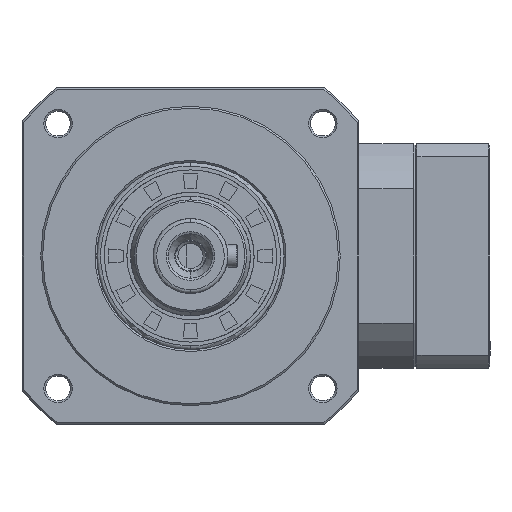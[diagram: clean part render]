
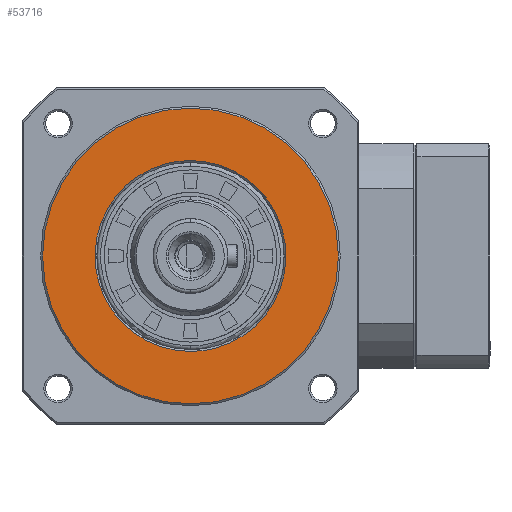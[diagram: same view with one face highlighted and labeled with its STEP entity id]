
A CAD part, left-side view. The second image highlights one B-rep face of the part: STEP entity #53716.
In plain terms, the highlighted planar face has unit normal (1, 0, 0).
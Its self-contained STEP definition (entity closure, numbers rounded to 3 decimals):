
#299 = CARTESIAN_POINT ( 'NONE',  ( 0., 24.684, -6.612 ) ) ;
#637 = CARTESIAN_POINT ( 'NONE',  ( 0., 0., 25.5 ) ) ;
#1298 = CARTESIAN_POINT ( 'NONE',  ( 0., 16.851, -19.211 ) ) ;
#3490 = CARTESIAN_POINT ( 'NONE',  ( 0., 0., 25.5 ) ) ;
#3763 = CARTESIAN_POINT ( 'NONE',  ( 0., 0., -25.5 ) ) ;
#4790 = CARTESIAN_POINT ( 'NONE',  ( 0., -12.779, 22.13 ) ) ;
#5102 = CARTESIAN_POINT ( 'NONE',  ( 0., -25.5, 1.669 ) ) ;
#5439 = CARTESIAN_POINT ( 'NONE',  ( 0., -15.555, 20.275 ) ) ;
#6093 = CARTESIAN_POINT ( 'NONE',  ( 0., -24.198, -8.216 ) ) ;
#6750 = CARTESIAN_POINT ( 'NONE',  ( 0., -1.669, -25.5 ) ) ;
#7942 = CARTESIAN_POINT ( 'NONE',  ( 0., 8.216, 24.198 ) ) ;
#8270 = CARTESIAN_POINT ( 'NONE',  ( 0., 12.779, 22.13 ) ) ;
#8598 = CARTESIAN_POINT ( 'NONE',  ( 0., 24.198, 8.216 ) ) ;
#8922 = CARTESIAN_POINT ( 'NONE',  ( 0., 19.211, -16.851 ) ) ;
#11432 = AXIS2_PLACEMENT_3D ( 'NONE', #35388, #73179, #88890 ) ;
#12439 = PLANE ( 'NONE',  #11432 ) ;
#13373 = CARTESIAN_POINT ( 'NONE',  ( 0., -8.216, 24.198 ) ) ;
#13704 = CARTESIAN_POINT ( 'NONE',  ( 0., -15.555, -20.275 ) ) ;
#15014 = CARTESIAN_POINT ( 'NONE',  ( 0., -3.338, -25.336 ) ) ;
#15252 = CARTESIAN_POINT ( 'NONE',  ( 0., 22.13, -12.779 ) ) ;
#15577 = CARTESIAN_POINT ( 'NONE',  ( 0., 19.211, 16.851 ) ) ;
#16246 = CARTESIAN_POINT ( 'NONE',  ( 0., 11.3, -22.92 ) ) ;
#20345 = CARTESIAN_POINT ( 'NONE',  ( 0., -24.684, -6.612 ) ) ;
#21386 = VERTEX_POINT ( 'NONE', #3763 ) ;
#22539 = CARTESIAN_POINT ( 'NONE',  ( 0., 20.275, -15.555 ) ) ;
#22871 = CARTESIAN_POINT ( 'NONE',  ( 0., 11.3, 22.92 ) ) ;
#23203 = CARTESIAN_POINT ( 'NONE',  ( 0., 25.5, -1.669 ) ) ;
#27670 = CARTESIAN_POINT ( 'NONE',  ( 0., -11.3, 22.92 ) ) ;
#28003 = CARTESIAN_POINT ( 'NONE',  ( 0., -22.92, -11.3 ) ) ;
#28499 = CIRCLE ( 'NONE', #69920, 39.5 ) ;
#28671 = CARTESIAN_POINT ( 'NONE',  ( 0., -20.275, 15.555 ) ) ;
#29219 = ORIENTED_EDGE ( 'NONE', *, *, #71617, .F. ) ;
#30545 = CARTESIAN_POINT ( 'NONE',  ( 0., 22.92, -11.3 ) ) ;
#30879 = CARTESIAN_POINT ( 'NONE',  ( 0., 12.779, -22.13 ) ) ;
#31604 = CARTESIAN_POINT ( 'NONE',  ( 0., 0., 0. ) ) ;
#32816 = ORIENTED_EDGE ( 'NONE', *, *, #77234, .F. ) ;
#34282 = EDGE_CURVE ( 'NONE', #38622, #48613, #28499, .T. ) ;
#35388 = CARTESIAN_POINT ( 'NONE',  ( 0., -39.974, 39.974 ) ) ;
#35686 = CARTESIAN_POINT ( 'NONE',  ( 0., -19.211, -16.851 ) ) ;
#38244 = DIRECTION ( 'NONE',  ( 1., 0., 0. ) ) ;
#38622 = VERTEX_POINT ( 'NONE', #83765 ) ;
#38882 = CARTESIAN_POINT ( 'NONE',  ( 0., 24.684, 6.612 ) ) ;
#40582 = EDGE_LOOP ( 'NONE', ( #89301, #55485 ) ) ;
#43394 = CARTESIAN_POINT ( 'NONE',  ( 0., -6.612, 24.684 ) ) ;
#45620 = CARTESIAN_POINT ( 'NONE',  ( 0., 20.275, 15.555 ) ) ;
#46943 = CARTESIAN_POINT ( 'NONE',  ( 0., 15.555, -20.275 ) ) ;
#47626 = FACE_OUTER_BOUND ( 'NONE', #40582, .T. ) ;
#48613 = VERTEX_POINT ( 'NONE', #65122 ) ;
#48937 = B_SPLINE_CURVE_WITH_KNOTS ( 'NONE', 3,
 ( #3490, #59112, #96235, #43394, #13373, #27670, #4790, #5439, #66801, #96552, #28671, #81131, #88858, #50792, #82119, #89836, #5102, #58454, #66143, #20345, #6093, #28003, #81462, #59448, #35686, #89184, #13704, #67129, #51117, #52750, #60106, #15014, #6750, #83764 ),
 .UNSPECIFIED., .F., .F.,
 ( 4, 2, 2, 2, 2, 2, 2, 2, 2, 2, 2, 2, 2, 2, 2, 2, 4 ),
 ( 0., 0.031, 0.063, 0.094, 0.125, 0.156, 0.188, 0.219, 0.25, 0.281, 0.313, 0.344, 0.375, 0.406, 0.438, 0.469, 0.5 ),
 .UNSPECIFIED. ) ;
#50792 = CARTESIAN_POINT ( 'NONE',  ( 0., -24.198, 8.216 ) ) ;
#51117 = CARTESIAN_POINT ( 'NONE',  ( 0., -11.3, -22.92 ) ) ;
#52750 = CARTESIAN_POINT ( 'NONE',  ( 0., -8.216, -24.198 ) ) ;
#53319 = CARTESIAN_POINT ( 'NONE',  ( 0., 3.338, -25.336 ) ) ;
#53647 = CARTESIAN_POINT ( 'NONE',  ( 0., 15.555, 20.275 ) ) ;
#53716 = ADVANCED_FACE ( 'NONE', ( #67945, #47626 ), #12439, .T. ) ;
#54298 = CARTESIAN_POINT ( 'NONE',  ( 0., 25.336, 3.338 ) ) ;
#54626 = CARTESIAN_POINT ( 'NONE',  ( 0., 0., -25.5 ) ) ;
#55022 = DIRECTION ( 'NONE',  ( 0., 0., -1. ) ) ;
#55485 = ORIENTED_EDGE ( 'NONE', *, *, #34282, .T. ) ;
#56936 = AXIS2_PLACEMENT_3D ( 'NONE', #31604, #93087, #55022 ) ;
#58454 = CARTESIAN_POINT ( 'NONE',  ( 0., -25.5, -1.669 ) ) ;
#59112 = CARTESIAN_POINT ( 'NONE',  ( 0., -1.669, 25.5 ) ) ;
#59448 = CARTESIAN_POINT ( 'NONE',  ( 0., -20.275, -15.555 ) ) ;
#60106 = CARTESIAN_POINT ( 'NONE',  ( 0., -6.612, -24.684 ) ) ;
#61657 = CARTESIAN_POINT ( 'NONE',  ( 0., 8.216, -24.198 ) ) ;
#61985 = CARTESIAN_POINT ( 'NONE',  ( 0., 3.338, 25.336 ) ) ;
#65122 = CARTESIAN_POINT ( 'NONE',  ( 0., 0., -39.5 ) ) ;
#66143 = CARTESIAN_POINT ( 'NONE',  ( 0., -25.336, -3.338 ) ) ;
#66801 = CARTESIAN_POINT ( 'NONE',  ( 0., -16.851, 19.211 ) ) ;
#67129 = CARTESIAN_POINT ( 'NONE',  ( 0., -12.779, -22.13 ) ) ;
#67945 = FACE_BOUND ( 'NONE', #67956, .T. ) ;
#67956 = EDGE_LOOP ( 'NONE', ( #29219, #32816 ) ) ;
#69004 = CARTESIAN_POINT ( 'NONE',  ( 0., 1.669, 25.5 ) ) ;
#69014 = DIRECTION ( 'NONE',  ( 0., 0., -1. ) ) ;
#69337 = CARTESIAN_POINT ( 'NONE',  ( 0., 6.612, 24.684 ) ) ;
#69920 = AXIS2_PLACEMENT_3D ( 'NONE', #84006, #38244, #69014 ) ;
#71617 = EDGE_CURVE ( 'NONE', #95544, #21386, #48937, .T. ) ;
#73179 = DIRECTION ( 'NONE',  ( 1., 0., 0. ) ) ;
#73877 = CIRCLE ( 'NONE', #56936, 39.5 ) ;
#75048 = B_SPLINE_CURVE_WITH_KNOTS ( 'NONE', 3,
 ( #54626, #76983, #53319, #92700, #61657, #16246, #30879, #46943, #1298, #8922, #22539, #15252, #30545, #83995, #299, #92041, #23203, #84649, #54298, #38882, #8598, #92368, #83670, #45620, #15577, #99089, #53647, #8270, #22871, #7942, #69337, #61985, #69004, #637 ),
 .UNSPECIFIED., .F., .F.,
 ( 4, 2, 2, 2, 2, 2, 2, 2, 2, 2, 2, 2, 2, 2, 2, 2, 4 ),
 ( 0.5, 0.531, 0.563, 0.594, 0.625, 0.656, 0.688, 0.719, 0.75, 0.781, 0.813, 0.844, 0.875, 0.906, 0.938, 0.969, 1. ),
 .UNSPECIFIED. ) ;
#76983 = CARTESIAN_POINT ( 'NONE',  ( 0., 1.669, -25.5 ) ) ;
#77234 = EDGE_CURVE ( 'NONE', #21386, #95544, #75048, .T. ) ;
#81131 = CARTESIAN_POINT ( 'NONE',  ( 0., -22.13, 12.779 ) ) ;
#81462 = CARTESIAN_POINT ( 'NONE',  ( 0., -22.13, -12.779 ) ) ;
#82119 = CARTESIAN_POINT ( 'NONE',  ( 0., -24.684, 6.612 ) ) ;
#83670 = CARTESIAN_POINT ( 'NONE',  ( 0., 22.13, 12.779 ) ) ;
#83764 = CARTESIAN_POINT ( 'NONE',  ( 0., 0., -25.5 ) ) ;
#83765 = CARTESIAN_POINT ( 'NONE',  ( 0., 0., 39.5 ) ) ;
#83995 = CARTESIAN_POINT ( 'NONE',  ( 0., 24.198, -8.216 ) ) ;
#84006 = CARTESIAN_POINT ( 'NONE',  ( 0., 0., 0. ) ) ;
#84649 = CARTESIAN_POINT ( 'NONE',  ( 0., 25.5, 1.669 ) ) ;
#88858 = CARTESIAN_POINT ( 'NONE',  ( 0., -22.92, 11.3 ) ) ;
#88890 = DIRECTION ( 'NONE',  ( 0., 0., -1. ) ) ;
#89184 = CARTESIAN_POINT ( 'NONE',  ( 0., -16.851, -19.211 ) ) ;
#89301 = ORIENTED_EDGE ( 'NONE', *, *, #90324, .T. ) ;
#89836 = CARTESIAN_POINT ( 'NONE',  ( 0., -25.336, 3.338 ) ) ;
#90324 = EDGE_CURVE ( 'NONE', #48613, #38622, #73877, .T. ) ;
#91719 = CARTESIAN_POINT ( 'NONE',  ( 0., 0., 25.5 ) ) ;
#92041 = CARTESIAN_POINT ( 'NONE',  ( 0., 25.336, -3.338 ) ) ;
#92368 = CARTESIAN_POINT ( 'NONE',  ( 0., 22.92, 11.3 ) ) ;
#92700 = CARTESIAN_POINT ( 'NONE',  ( 0., 6.612, -24.684 ) ) ;
#93087 = DIRECTION ( 'NONE',  ( 1., 0., 0. ) ) ;
#95544 = VERTEX_POINT ( 'NONE', #91719 ) ;
#96235 = CARTESIAN_POINT ( 'NONE',  ( 0., -3.338, 25.336 ) ) ;
#96552 = CARTESIAN_POINT ( 'NONE',  ( 0., -19.211, 16.851 ) ) ;
#99089 = CARTESIAN_POINT ( 'NONE',  ( 0., 16.851, 19.211 ) ) ;
